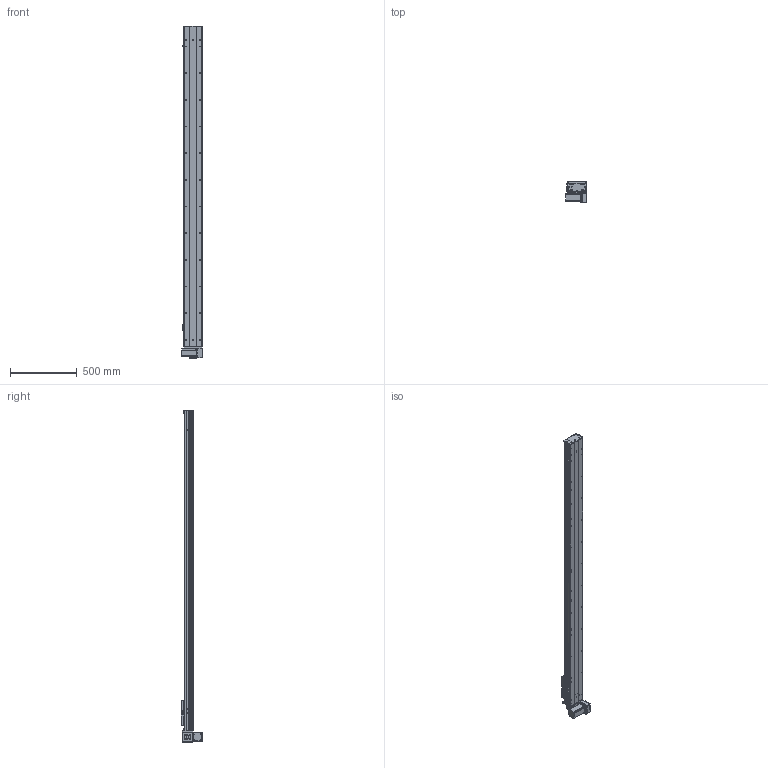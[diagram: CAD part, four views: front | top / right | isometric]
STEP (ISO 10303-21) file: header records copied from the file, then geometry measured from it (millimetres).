
FILE_DESCRIPTION (( 'STEP AP203' ), '1' );
FILE_NAME ('Y135CB-D90-S2100-BM-P400W.STEP', '2020-02-19T01:43:51', ( '微软用户' ), ( '微软中国' ), 'SwSTEP 2.0', 'SolidWorks 2017', '' );
FILE_SCHEMA (( 'CONFIG_CONTROL_DESIGN' ));
Length unit declared in the file: millimetre
Products named in the file (18): 5C--俋欶; 0B-源倛裔啣; C-雄赽釱--; 0B-萇儂楊擘啣; Y10B--々湍喘謫眊--666; san松下电机400不带刹车----; 00B-俋欶BM--; 5CB --掛极耜裔啣-; Y10B-耜蚾蟀諉啣----; C-詩湍揤踡え-陔; Y135CB-耜裔; Y135CB-D90-S2100-BM-P400W; 135CB--詩湍-CE; 135CB---遴掛极.-; Y100-135俋离換覜ん--; 35CB---喘謫眊楊擘啣; Y135C-陔俋离換覜結え-; 0B-埴倛裔啣
Assembly tree (21 placements, depth 2):
  Y135CB-D90-S2100-BM-P400W
    Y135CB-耜裔
    135CB---遴掛极.-
    35CB---喘謫眊楊擘啣
    0B-埴倛裔啣
    0B-源倛裔啣
    0B-萇儂楊擘啣
    san松下电机400不带刹车----
    5CB --掛极耜裔啣-  x2
    C-詩湍揤踡え-陔  x2
    135CB--詩湍-CE
    Y100-135俋离換覜ん--  x3
    Y135C-陔俋离換覜結え-
    5C--俋欶
    C-雄赽釱--
    Y10B--々湍喘謫眊--666
    00B-俋欶BM--
    Y10B-耜蚾蟀諉啣----
Bounding box: 157 x 163.3 x 2488 mm (x, y, z)
Volume: 7242941.2 mm3; surface area: 2863046.3 mm2
Topology: 21 solids, 21 shells, 969 faces, 2635 edges, 1746 vertices
Faces by surface type: cylinder 497, plane 456, cone 16
Entity records: 30561 total; most frequent: DIRECTION 5079, CARTESIAN_POINT 5076, ORIENTED_EDGE 4746, EDGE_CURVE 2373, AXIS2_PLACEMENT_3D 1861, VERTEX_POINT 1574, LINE 1357, VECTOR 1357
